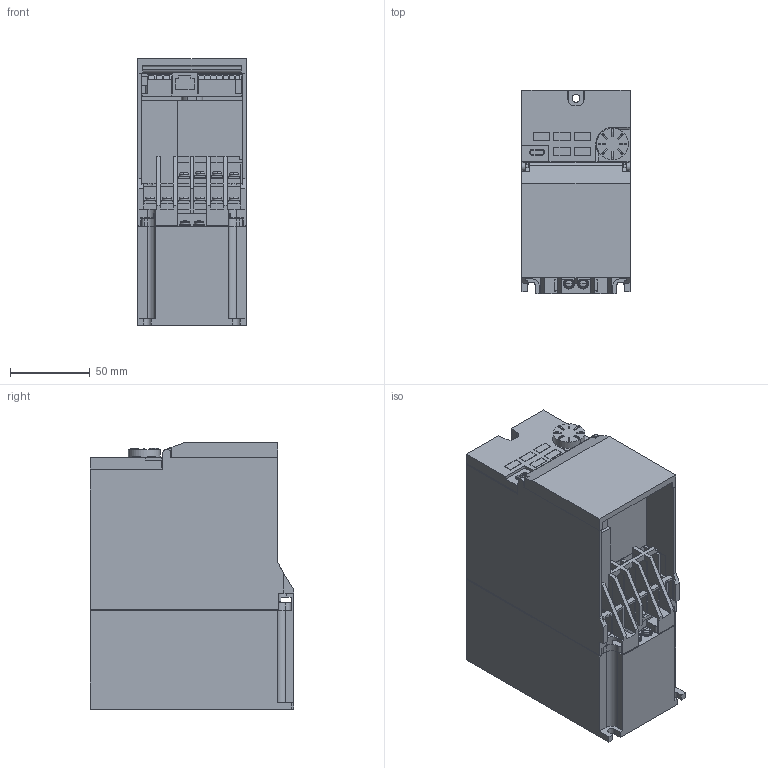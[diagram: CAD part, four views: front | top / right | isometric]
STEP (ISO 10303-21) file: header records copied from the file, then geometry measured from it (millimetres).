
FILE_DESCRIPTION((''),'2;1');
FILE_NAME('3D-INV-52_03_ASM','2024-11-29T10:22:21',('CT89920'),(''),'CREO PARAMETRIC BY PTC INC, 2022281','CREO PARAMETRIC BY PTC INC, 2022281','');
FILE_SCHEMA(('CONFIG_CONTROL_DESIGN','SHAPE_APPEARANCE_LAYERS_GROUPS'));
Length unit declared in the file: millimetre
Products named in the file (7): 3D-BASE-52_03; 3D-TE_SHORT-51_01; 3D-TE_NEJI-M3_5X8-ZA7; 3D-TE-NEJI-51_02_ASM; 3D-SW-PW-P-M3_5X10; 3D-S_COV-D80-0_75; 3D-INV-52_03_ASM
Assembly tree (16 placements, depth 3):
  3D-INV-52_03_ASM
    3D-BASE-52_03
    3D-TE-NEJI-51_02_ASM
      3D-TE_SHORT-51_01
      3D-TE_NEJI-M3_5X8-ZA7  x10
    3D-SW-PW-P-M3_5X10  x2
    3D-S_COV-D80-0_75
Bounding box: 68 x 128 x 167.5 mm (x, y, z)
Volume: 682118.2 mm3; surface area: 178653.7 mm2
Topology: 15 solids, 15 shells, 915 faces, 2466 edges, 1603 vertices
Faces by surface type: plane 728, cylinder 139, torus 24, extrusion 16, cone 4, sphere 4
Entity records: 30665 total; most frequent: CARTESIAN_POINT 5120, ORIENTED_EDGE 4360, DIRECTION 3972, EDGE_CURVE 2180, VECTOR 1930, LINE 1914, VERTEX_POINT 1422, AXIS2_PLACEMENT_3D 1021
